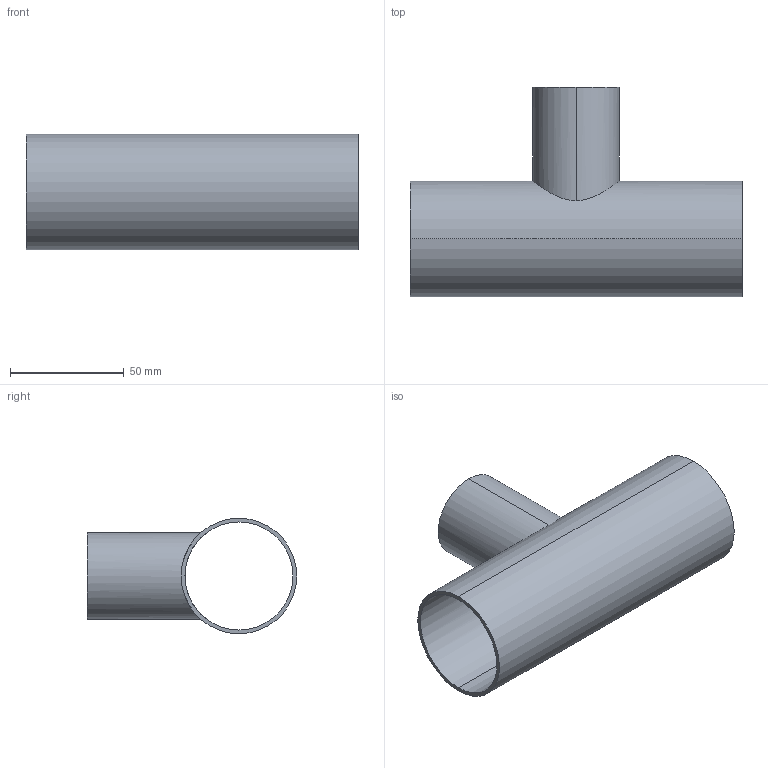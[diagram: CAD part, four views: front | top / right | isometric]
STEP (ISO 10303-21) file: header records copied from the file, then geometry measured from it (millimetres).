
FILE_DESCRIPTION (( 'STEP AP214' ), '1' );
FILE_NAME ('TE7RWWW6L2.0x1.5-...STEP', '2016-05-24T04:15:11', ( 'eran' ), ( '' ), 'SwSTEP 2.0', 'SolidWorks 2016', '' );
FILE_SCHEMA (( 'AUTOMOTIVE_DESIGN' ));
Length unit declared in the file: millimetre
Products named in the file (1): TE7RWWW6L2.0x1.5-..
Bounding box: 146 x 92.1 x 50.8 mm (x, y, z)
Volume: 44004.5 mm3; surface area: 54029.9 mm2
Topology: 1 solids, 1 shells, 11 faces, 24 edges, 16 vertices
Faces by surface type: cylinder 8, plane 3
Entity records: 578 total; most frequent: CARTESIAN_POINT 286, DIRECTION 56, ORIENTED_EDGE 48, AXIS2_PLACEMENT_3D 24, EDGE_CURVE 24, EDGE_LOOP 16, VERTEX_POINT 16, CIRCLE 12
